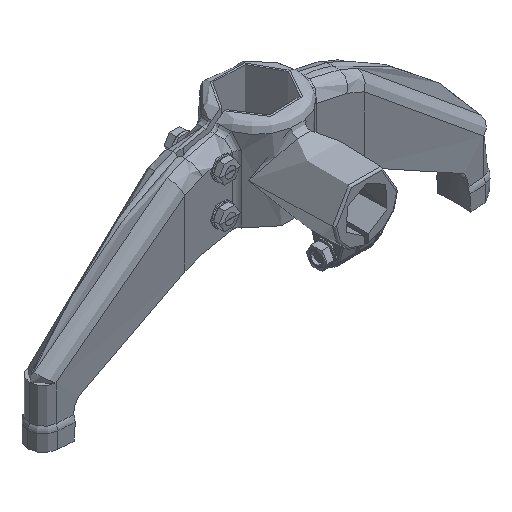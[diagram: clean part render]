
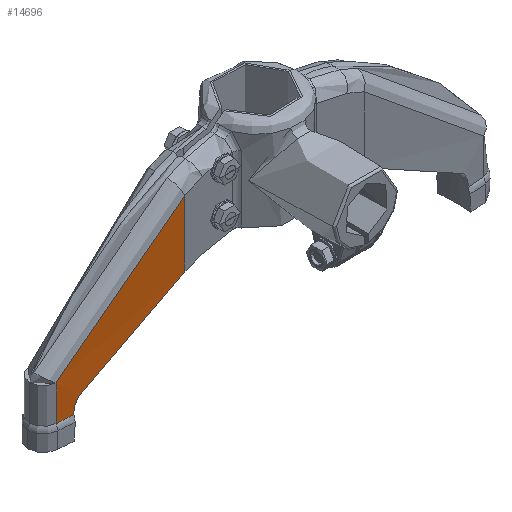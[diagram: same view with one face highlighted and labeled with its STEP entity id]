
A CAD part, isometric view. The second image highlights one B-rep face of the part: STEP entity #14696.
In plain terms, the highlighted cylindrical face has radius 1500 mm (diameter 3000 mm), a partial arc.
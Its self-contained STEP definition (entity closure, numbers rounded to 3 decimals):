
#107 = ORIENTED_EDGE ( 'NONE', *, *, #731, .F. ) ;
#260 = CARTESIAN_POINT ( 'NONE',  ( -84.268, -17.5, 185. ) ) ;
#602 = CARTESIAN_POINT ( 'NONE',  ( -84.268, 1482.5, 20.268 ) ) ;
#673 = ORIENTED_EDGE ( 'NONE', *, *, #9906, .F. ) ;
#731 = EDGE_CURVE ( 'NONE', #7733, #13606, #1911, .T. ) ;
#760 = CARTESIAN_POINT ( 'NONE',  ( -185.107, -14.107, 26.08 ) ) ;
#911 = CARTESIAN_POINT ( 'NONE',  ( -168.018, -15.167, 92.537 ) ) ;
#1143 = CARTESIAN_POINT ( 'NONE',  ( -144.015, -16.318, 113.756 ) ) ;
#1245 = FACE_OUTER_BOUND ( 'NONE', #14241, .T. ) ;
#1246 = CARTESIAN_POINT ( 'NONE',  ( -181.216, -14.364, 33.46 ) ) ;
#1278 = EDGE_CURVE ( 'NONE', #7667, #4662, #10418, .T. ) ;
#1332 = CARTESIAN_POINT ( 'NONE',  ( -201.011, -12.95, 53.466 ) ) ;
#1911 = LINE ( 'NONE', #10619, #13746 ) ;
#1950 = VECTOR ( 'NONE', #13628, 1000. ) ;
#1975 = CARTESIAN_POINT ( 'NONE',  ( -184.86, -14.123, 27.848 ) ) ;
#1995 = B_SPLINE_CURVE_WITH_KNOTS ( 'NONE', 3,
 ( #13041, #9320, #14250, #3186, #1975, #6907, #11829, #13584, #14878, #9868, #5939, #9642, #9787, #6242, #14571, #14800, #1246 ),
 .UNSPECIFIED., .F., .F.,
 ( 4, 2, 2, 1, 2, 2, 2, 2, 4 ),
 ( 0., 0.125, 0.25, 0.375, 0.438, 0.5, 0.625, 0.75, 1. ),
 .UNSPECIFIED. ) ;
#2051 = B_SPLINE_CURVE_WITH_KNOTS ( 'NONE', 3,
 ( #8684, #12074, #13590, #2530, #4142, #6571, #14962, #3814, #12384, #12621, #8753, #12457, #3970, #10188 ),
 .UNSPECIFIED., .F., .F.,
 ( 4, 2, 2, 1, 1, 2, 2, 4 ),
 ( 0., 0.25, 0.375, 0.438, 0.469, 0.484, 0.5, 1. ),
 .UNSPECIFIED. ) ;
#2110 = CARTESIAN_POINT ( 'NONE',  ( -128.655, -16.852, 125.088 ) ) ;
#2188 = CARTESIAN_POINT ( 'NONE',  ( -181.21, -14.37, 78.607 ) ) ;
#2342 = CARTESIAN_POINT ( 'NONE',  ( -107.099, -17.337, 138.576 ) ) ;
#2530 = CARTESIAN_POINT ( 'NONE',  ( -154.616, -15.854, 52.27 ) ) ;
#2673 = VECTOR ( 'NONE', #7867, 1000. ) ;
#3021 = DIRECTION ( 'NONE',  ( -1., 0., 0. ) ) ;
#3186 = CARTESIAN_POINT ( 'NONE',  ( -184.935, -14.118, 27.501 ) ) ;
#3482 = CARTESIAN_POINT ( 'NONE',  ( -151.403, -15.999, 107.65 ) ) ;
#3558 = CARTESIAN_POINT ( 'NONE',  ( -162.187, -15.475, 98.048 ) ) ;
#3814 = CARTESIAN_POINT ( 'NONE',  ( -138.225, -16.53, 62.287 ) ) ;
#3970 = CARTESIAN_POINT ( 'NONE',  ( -101.604, -17.5, 81.566 ) ) ;
#4106 = EDGE_CURVE ( 'NONE', #15937, #4662, #2051, .T. ) ;
#4142 = CARTESIAN_POINT ( 'NONE',  ( -150.693, -16.034, 54.774 ) ) ;
#4662 = VERTEX_POINT ( 'NONE', #11420 ) ;
#4772 = CARTESIAN_POINT ( 'NONE',  ( -157.443, -15.715, 102.383 ) ) ;
#5026 = AXIS2_PLACEMENT_3D ( 'NONE', #602, #7956, #3021 ) ;
#5469 = ORIENTED_EDGE ( 'NONE', *, *, #1278, .F. ) ;
#5474 = EDGE_CURVE ( 'NONE', #7667, #10801, #10739, .T. ) ;
#5629 = ORIENTED_EDGE ( 'NONE', *, *, #12766, .T. ) ;
#5837 = CARTESIAN_POINT ( 'NONE',  ( -201.011, -12.95, 53.466 ) ) ;
#5939 = CARTESIAN_POINT ( 'NONE',  ( -183.804, -14.194, 30.511 ) ) ;
#6064 = CARTESIAN_POINT ( 'NONE',  ( -153.837, -15.888, 105.57 ) ) ;
#6094 = CARTESIAN_POINT ( 'NONE',  ( -181.216, -14.364, 33.46 ) ) ;
#6131 = CARTESIAN_POINT ( 'NONE',  ( -201.011, -12.95, 185. ) ) ;
#6160 = DIRECTION ( 'NONE',  ( 0., 0., 1. ) ) ;
#6242 = CARTESIAN_POINT ( 'NONE',  ( -183.008, -14.247, 31.693 ) ) ;
#6571 = CARTESIAN_POINT ( 'NONE',  ( -144.74, -16.282, 58.428 ) ) ;
#6907 = CARTESIAN_POINT ( 'NONE',  ( -184.668, -14.136, 28.543 ) ) ;
#7278 = CARTESIAN_POINT ( 'NONE',  ( -112.603, -17.242, 135.377 ) ) ;
#7624 = CARTESIAN_POINT ( 'NONE',  ( -84.268, 1482.5, 185. ) ) ;
#7667 = VERTEX_POINT ( 'NONE', #11392 ) ;
#7733 = VERTEX_POINT ( 'NONE', #760 ) ;
#7867 = DIRECTION ( 'NONE',  ( 0., 0., -1. ) ) ;
#7956 = DIRECTION ( 'NONE',  ( 0., 0., -1. ) ) ;
#8424 = CARTESIAN_POINT ( 'NONE',  ( -161.011, -15.536, 99.141 ) ) ;
#8525 = CARTESIAN_POINT ( 'NONE',  ( -201.011, -12.95, 20.268 ) ) ;
#8684 = CARTESIAN_POINT ( 'NONE',  ( -181.216, -14.364, 33.46 ) ) ;
#8753 = CARTESIAN_POINT ( 'NONE',  ( -135.192, -16.635, 64.027 ) ) ;
#8825 = DIRECTION ( 'NONE',  ( -1., 0., 0. ) ) ;
#8931 = ORIENTED_EDGE ( 'NONE', *, *, #4106, .T. ) ;
#9320 = CARTESIAN_POINT ( 'NONE',  ( -185.088, -14.108, 26.439 ) ) ;
#9424 = DIRECTION ( 'NONE',  ( -0.053, 0.004, -0.999 ) ) ;
#9642 = CARTESIAN_POINT ( 'NONE',  ( -183.621, -14.206, 30.818 ) ) ;
#9690 = CARTESIAN_POINT ( 'NONE',  ( -95.859, -17.466, 144.623 ) ) ;
#9787 = CARTESIAN_POINT ( 'NONE',  ( -183.222, -14.232, 31.409 ) ) ;
#9868 = CARTESIAN_POINT ( 'NONE',  ( -184.055, -14.177, 30.036 ) ) ;
#9906 = EDGE_CURVE ( 'NONE', #13606, #14601, #14820, .T. ) ;
#9992 = ORIENTED_EDGE ( 'NONE', *, *, #5474, .T. ) ;
#10188 = CARTESIAN_POINT ( 'NONE',  ( -84.268, -17.5, 88.398 ) ) ;
#10418 = LINE ( 'NONE', #260, #2673 ) ;
#10456 = EDGE_CURVE ( 'NONE', #10801, #14601, #12273, .T. ) ;
#10619 = CARTESIAN_POINT ( 'NONE',  ( -185.107, -14.107, 26.08 ) ) ;
#10739 = B_SPLINE_CURVE_WITH_KNOTS ( 'NONE', 3,
 ( #15762, #12197, #9690, #2342, #7278, #14539, #2110, #13480, #1143, #3482, #6064, #4772, #14619, #8424, #3558, #911, #10818, #2188, #13248, #15920, #13331, #5837 ),
 .UNSPECIFIED., .F., .F.,
 ( 4, 2, 2, 2, 2, 2, 2, 2, 2, 2, 4 ),
 ( 0., 0.125, 0.25, 0.375, 0.5, 0.563, 0.594, 0.625, 0.75, 0.875, 1. ),
 .UNSPECIFIED. ) ;
#10801 = VERTEX_POINT ( 'NONE', #1332 ) ;
#10818 = CARTESIAN_POINT ( 'NONE',  ( -172.522, -14.908, 87.987 ) ) ;
#11392 = CARTESIAN_POINT ( 'NONE',  ( -84.268, -17.5, 150.141 ) ) ;
#11420 = CARTESIAN_POINT ( 'NONE',  ( -84.268, -17.5, 88.398 ) ) ;
#11829 = CARTESIAN_POINT ( 'NONE',  ( -184.497, -14.148, 29.054 ) ) ;
#12074 = CARTESIAN_POINT ( 'NONE',  ( -173.823, -14.843, 39.143 ) ) ;
#12197 = CARTESIAN_POINT ( 'NONE',  ( -90.123, -17.5, 147.471 ) ) ;
#12273 = LINE ( 'NONE', #6131, #1950 ) ;
#12384 = CARTESIAN_POINT ( 'NONE',  ( -136.71, -16.583, 63.159 ) ) ;
#12457 = CARTESIAN_POINT ( 'NONE',  ( -118.412, -17.2, 73.538 ) ) ;
#12461 = ORIENTED_EDGE ( 'NONE', *, *, #10456, .T. ) ;
#12621 = CARTESIAN_POINT ( 'NONE',  ( -135.698, -16.618, 63.739 ) ) ;
#12675 = AXIS2_PLACEMENT_3D ( 'NONE', #7624, #6160, #8825 ) ;
#12766 = EDGE_CURVE ( 'NONE', #7733, #15937, #1995, .T. ) ;
#13041 = CARTESIAN_POINT ( 'NONE',  ( -185.107, -14.107, 26.08 ) ) ;
#13198 = CARTESIAN_POINT ( 'NONE',  ( -185.414, -14.086, 20.268 ) ) ;
#13248 = CARTESIAN_POINT ( 'NONE',  ( -185.395, -14.093, 73.777 ) ) ;
#13331 = CARTESIAN_POINT ( 'NONE',  ( -197.309, -13.239, 58.722 ) ) ;
#13480 = CARTESIAN_POINT ( 'NONE',  ( -138.972, -16.511, 117.649 ) ) ;
#13584 = CARTESIAN_POINT ( 'NONE',  ( -184.285, -14.162, 29.548 ) ) ;
#13590 = CARTESIAN_POINT ( 'NONE',  ( -166.249, -15.278, 44.556 ) ) ;
#13606 = VERTEX_POINT ( 'NONE', #13198 ) ;
#13628 = DIRECTION ( 'NONE',  ( 0., 0., -1. ) ) ;
#13746 = VECTOR ( 'NONE', #9424, 1000. ) ;
#14241 = EDGE_LOOP ( 'NONE', ( #5469, #9992, #12461, #673, #107, #5629, #8931 ) ) ;
#14250 = CARTESIAN_POINT ( 'NONE',  ( -185.05, -14.11, 26.796 ) ) ;
#14539 = CARTESIAN_POINT ( 'NONE',  ( -123.381, -17., 128.633 ) ) ;
#14571 = CARTESIAN_POINT ( 'NONE',  ( -182.31, -14.293, 32.522 ) ) ;
#14601 = VERTEX_POINT ( 'NONE', #8525 ) ;
#14619 = CARTESIAN_POINT ( 'NONE',  ( -158.638, -15.656, 101.309 ) ) ;
#14696 = ADVANCED_FACE ( 'NONE', ( #1245 ), #14799, .T. ) ;
#14799 = CYLINDRICAL_SURFACE ( 'NONE', #12675, 1500. ) ;
#14800 = CARTESIAN_POINT ( 'NONE',  ( -181.79, -14.327, 33.019 ) ) ;
#14820 = CIRCLE ( 'NONE', #5026, 1500. ) ;
#14878 = CARTESIAN_POINT ( 'NONE',  ( -184.135, -14.172, 29.874 ) ) ;
#14962 = CARTESIAN_POINT ( 'NONE',  ( -141.747, -16.401, 60.229 ) ) ;
#15762 = CARTESIAN_POINT ( 'NONE',  ( -84.268, -17.5, 150.141 ) ) ;
#15920 = CARTESIAN_POINT ( 'NONE',  ( -193.444, -13.527, 63.834 ) ) ;
#15937 = VERTEX_POINT ( 'NONE', #6094 ) ;
